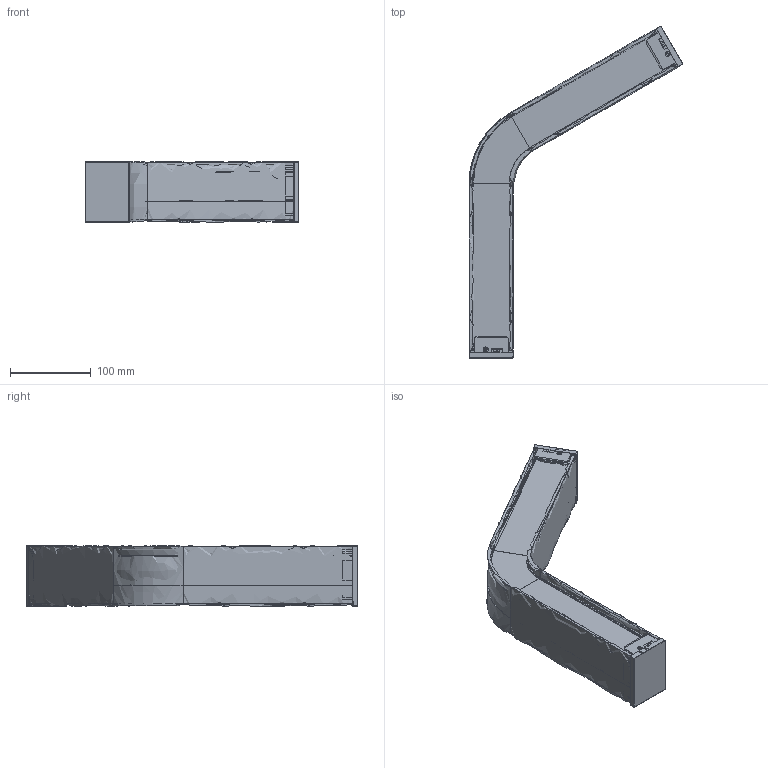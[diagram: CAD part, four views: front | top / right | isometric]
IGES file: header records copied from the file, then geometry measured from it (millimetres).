
Global section: file name: C:\Users\info\Desktop\CRIS\05. NEW PRODUCT\LUMINARIA KISS\3D para web\KISS A120 - IGS.igs; native system: Rhinoceros ( Feb 27 2019 ); preprocessor: Trout Lake IGES 012 Feb 27 2019; date: 260424.120325; units: millimetre
Bounding box: 264.94 x 411.39 x 75 mm (x, y, z)
Surface area: 404615.4 mm2 (no closed solid volume)
Topology: 0 solids, 0 shells, 1922 faces, 17364 edges, 17358 vertices
Faces by surface type: bspline 1922
